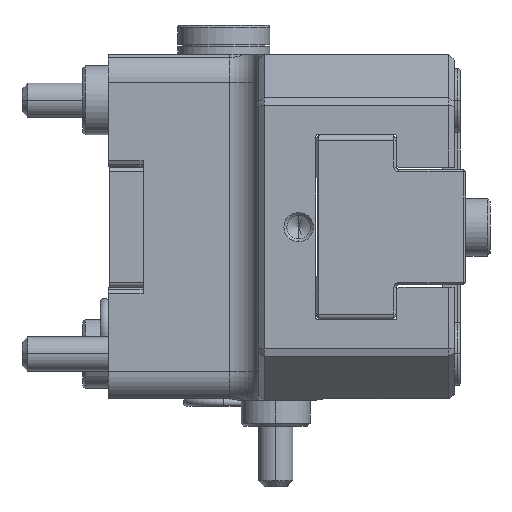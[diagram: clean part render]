
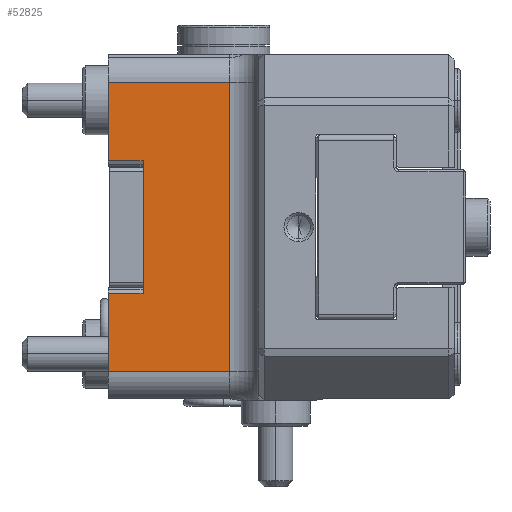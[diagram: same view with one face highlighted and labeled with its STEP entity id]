
A CAD part, left-side view. The second image highlights one B-rep face of the part: STEP entity #52825.
In plain terms, the highlighted planar face has unit normal (-1, 0, 0).
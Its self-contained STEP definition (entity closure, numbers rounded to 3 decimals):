
#158 = ORIENTED_EDGE ( 'NONE', *, *, #29914, .T. ) ;
#907 = CARTESIAN_POINT ( 'NONE',  ( -21., 28., 5.75 ) ) ;
#4873 = VERTEX_POINT ( 'NONE', #9079 ) ;
#4877 = CARTESIAN_POINT ( 'NONE',  ( -21., 31., -12.557 ) ) ;
#5212 = LINE ( 'NONE', #34957, #50335 ) ;
#5880 = EDGE_LOOP ( 'NONE', ( #33500, #49845, #31495, #37740, #30871, #48641, #40524, #158 ) ) ;
#7169 = DIRECTION ( 'NONE',  ( 0., 0., -1. ) ) ;
#8673 = DIRECTION ( 'NONE',  ( 0., 1., 0. ) ) ;
#9079 = CARTESIAN_POINT ( 'NONE',  ( -21., 31., 5.75 ) ) ;
#10145 = CARTESIAN_POINT ( 'NONE',  ( -21., 18., -12.557 ) ) ;
#10508 = VECTOR ( 'NONE', #29754, 1000. ) ;
#10719 = VECTOR ( 'NONE', #15540, 1000. ) ;
#11286 = VERTEX_POINT ( 'NONE', #44092 ) ;
#11470 = LINE ( 'NONE', #49547, #33396 ) ;
#11864 = LINE ( 'NONE', #51463, #10508 ) ;
#12910 = VERTEX_POINT ( 'NONE', #16414 ) ;
#13673 = VERTEX_POINT ( 'NONE', #27766 ) ;
#14819 = DIRECTION ( 'NONE',  ( 0., 0., 1. ) ) ;
#15323 = EDGE_CURVE ( 'NONE', #22544, #13673, #28514, .T. ) ;
#15487 = CARTESIAN_POINT ( 'NONE',  ( -21., 28., -5.75 ) ) ;
#15540 = DIRECTION ( 'NONE',  ( 0., 0., -1. ) ) ;
#15699 = CARTESIAN_POINT ( 'NONE',  ( -21., 31., 12.557 ) ) ;
#16414 = CARTESIAN_POINT ( 'NONE',  ( -21., 31., -5.75 ) ) ;
#19624 = VERTEX_POINT ( 'NONE', #907 ) ;
#19907 = EDGE_CURVE ( 'NONE', #11286, #43355, #11864, .T. ) ;
#21778 = EDGE_CURVE ( 'NONE', #19624, #4873, #28812, .T. ) ;
#22324 = LINE ( 'NONE', #41704, #10719 ) ;
#22544 = VERTEX_POINT ( 'NONE', #4877 ) ;
#23369 = DIRECTION ( 'NONE',  ( 0., -1., 0. ) ) ;
#23866 = CARTESIAN_POINT ( 'NONE',  ( -21., 31., 15. ) ) ;
#26085 = CARTESIAN_POINT ( 'NONE',  ( -21., 20.5, 12.557 ) ) ;
#27766 = CARTESIAN_POINT ( 'NONE',  ( -21., 20.5, -12.557 ) ) ;
#28258 = DIRECTION ( 'NONE',  ( 0., 1., 0. ) ) ;
#28387 = CARTESIAN_POINT ( 'NONE',  ( -21., 27.452, 5.75 ) ) ;
#28514 = LINE ( 'NONE', #10145, #38826 ) ;
#28812 = LINE ( 'NONE', #28387, #39108 ) ;
#29754 = DIRECTION ( 'NONE',  ( 0., 1., 0. ) ) ;
#29914 = EDGE_CURVE ( 'NONE', #43355, #4873, #35930, .T. ) ;
#30871 = ORIENTED_EDGE ( 'NONE', *, *, #15323, .T. ) ;
#31126 = FACE_OUTER_BOUND ( 'NONE', #5880, .T. ) ;
#31495 = ORIENTED_EDGE ( 'NONE', *, *, #50644, .T. ) ;
#32551 = EDGE_CURVE ( 'NONE', #48596, #19624, #11470, .T. ) ;
#32925 = LINE ( 'NONE', #26085, #54566 ) ;
#33396 = VECTOR ( 'NONE', #14819, 1000. ) ;
#33446 = CARTESIAN_POINT ( 'NONE',  ( -21., 31., 15. ) ) ;
#33500 = ORIENTED_EDGE ( 'NONE', *, *, #21778, .F. ) ;
#34544 = VECTOR ( 'NONE', #7169, 1000. ) ;
#34957 = CARTESIAN_POINT ( 'NONE',  ( -21., 27.452, -5.75 ) ) ;
#35930 = LINE ( 'NONE', #33446, #34544 ) ;
#36930 = PLANE ( 'NONE',  #45172 ) ;
#37278 = DIRECTION ( 'NONE',  ( 0., 1., 0. ) ) ;
#37740 = ORIENTED_EDGE ( 'NONE', *, *, #51474, .T. ) ;
#38826 = VECTOR ( 'NONE', #23369, 1000. ) ;
#38863 = EDGE_CURVE ( 'NONE', #13673, #11286, #32925, .T. ) ;
#39108 = VECTOR ( 'NONE', #37278, 1000. ) ;
#40524 = ORIENTED_EDGE ( 'NONE', *, *, #19907, .T. ) ;
#41704 = CARTESIAN_POINT ( 'NONE',  ( -21., 31., 15. ) ) ;
#43355 = VERTEX_POINT ( 'NONE', #15699 ) ;
#43862 = DIRECTION ( 'NONE',  ( 0., 0., 1. ) ) ;
#44092 = CARTESIAN_POINT ( 'NONE',  ( -21., 20.5, 12.557 ) ) ;
#45172 = AXIS2_PLACEMENT_3D ( 'NONE', #23866, #54246, #28258 ) ;
#48596 = VERTEX_POINT ( 'NONE', #15487 ) ;
#48641 = ORIENTED_EDGE ( 'NONE', *, *, #38863, .T. ) ;
#49547 = CARTESIAN_POINT ( 'NONE',  ( -21., 28., -5.275 ) ) ;
#49845 = ORIENTED_EDGE ( 'NONE', *, *, #32551, .F. ) ;
#50335 = VECTOR ( 'NONE', #8673, 1000. ) ;
#50644 = EDGE_CURVE ( 'NONE', #48596, #12910, #5212, .T. ) ;
#51463 = CARTESIAN_POINT ( 'NONE',  ( -21., 31., 12.557 ) ) ;
#51474 = EDGE_CURVE ( 'NONE', #12910, #22544, #22324, .T. ) ;
#52825 = ADVANCED_FACE ( 'NONE', ( #31126 ), #36930, .F. ) ;
#54246 = DIRECTION ( 'NONE',  ( 1., 0., 0. ) ) ;
#54566 = VECTOR ( 'NONE', #43862, 1000. ) ;
